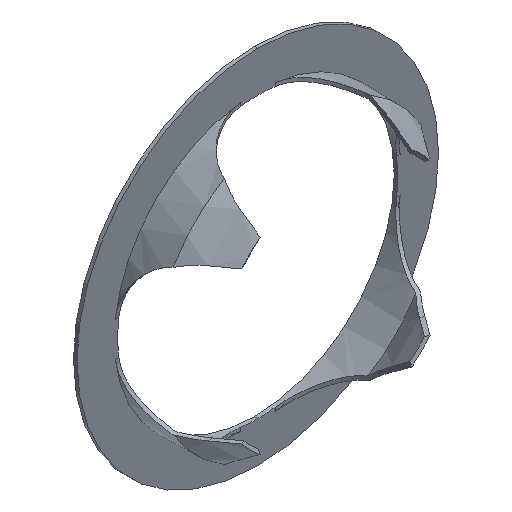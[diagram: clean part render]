
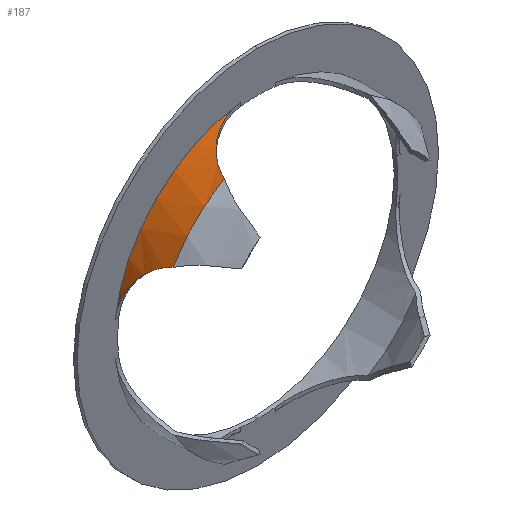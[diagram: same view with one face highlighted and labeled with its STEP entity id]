
A CAD part, isometric view. The second image highlights one B-rep face of the part: STEP entity #187.
In plain terms, the highlighted cylindrical face has radius 12.3 mm (diameter 24.6 mm), a partial arc.
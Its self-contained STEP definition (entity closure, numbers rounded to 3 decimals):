
#26 = B_SPLINE_CURVE_WITH_KNOTS ( 'NONE', 3,
 ( #1352, #1109, #775, #281, #1368, #645, #1017, #266, #1125, #402, #394, #892, #1250, #659, #409, #519 ),
 .UNSPECIFIED., .F., .F.,
 ( 4, 2, 2, 2, 2, 2, 2, 4 ),
 ( 0.014, 0.015, 0.016, 0.017, 0.017, 0.019, 0.02, 0.021 ),
 .UNSPECIFIED. ) ;
#42 = FACE_OUTER_BOUND ( 'NONE', #873, .T. ) ;
#77 = CARTESIAN_POINT ( 'NONE',  ( -10.928, -2.196, 5.648 ) ) ;
#99 = CARTESIAN_POINT ( 'NONE',  ( -10.721, -2.87, 6.031 ) ) ;
#117 = VERTEX_POINT ( 'NONE', #1499 ) ;
#125 = ORIENTED_EDGE ( 'NONE', *, *, #860, .T. ) ;
#149 = EDGE_CURVE ( 'NONE', #979, #117, #26, .T. ) ;
#187 = ADVANCED_FACE ( 'NONE', ( #42 ), #527, .T. ) ;
#195 = CARTESIAN_POINT ( 'NONE',  ( -11.403, -1.082, 4.616 ) ) ;
#210 = CARTESIAN_POINT ( 'NONE',  ( -10.662, -3.106, 6.134 ) ) ;
#266 = CARTESIAN_POINT ( 'NONE',  ( -3.987, -0.655, 11.639 ) ) ;
#268 = CARTESIAN_POINT ( 'NONE',  ( 0., -3.35, 0. ) ) ;
#281 = CARTESIAN_POINT ( 'NONE',  ( -2.546, -0.104, 12.036 ) ) ;
#326 = CARTESIAN_POINT ( 'NONE',  ( -10.611, -3.35, 6.22 ) ) ;
#345 = CARTESIAN_POINT ( 'NONE',  ( -1.5, 0., 12.208 ) ) ;
#394 = CARTESIAN_POINT ( 'NONE',  ( -5.19, -1.588, 11.156 ) ) ;
#402 = CARTESIAN_POINT ( 'NONE',  ( -4.821, -1.228, 11.324 ) ) ;
#409 = CARTESIAN_POINT ( 'NONE',  ( -6.134, -3.105, 10.662 ) ) ;
#424 = DIRECTION ( 'NONE',  ( 0., 1., 0. ) ) ;
#457 = CARTESIAN_POINT ( 'NONE',  ( -11.08, -1.791, 5.343 ) ) ;
#519 = CARTESIAN_POINT ( 'NONE',  ( -6.22, -3.35, 10.611 ) ) ;
#524 = DIRECTION ( 'NONE',  ( 0., 1., 0. ) ) ;
#527 = CYLINDRICAL_SURFACE ( 'NONE', #1047, 12.3 ) ;
#568 = CARTESIAN_POINT ( 'NONE',  ( -12.036, -0.104, 2.546 ) ) ;
#584 = EDGE_CURVE ( 'NONE', #1230, #117, #931, .T. ) ;
#625 = CARTESIAN_POINT ( 'NONE',  ( -12.208, 0., 1.5 ) ) ;
#641 = ORIENTED_EDGE ( 'NONE', *, *, #1501, .F. ) ;
#645 = CARTESIAN_POINT ( 'NONE',  ( -3.288, -0.324, 11.855 ) ) ;
#659 = CARTESIAN_POINT ( 'NONE',  ( -6.029, -2.865, 10.722 ) ) ;
#677 = CARTESIAN_POINT ( 'NONE',  ( -11.321, -1.247, 4.813 ) ) ;
#700 = CARTESIAN_POINT ( 'NONE',  ( -12.134, -0.021, 2.03 ) ) ;
#765 = CARTESIAN_POINT ( 'NONE',  ( 0., 0., 0. ) ) ;
#775 = CARTESIAN_POINT ( 'NONE',  ( -2.026, -0.021, 12.135 ) ) ;
#799 = CARTESIAN_POINT ( 'NONE',  ( -11.16, -1.601, 5.176 ) ) ;
#811 = CARTESIAN_POINT ( 'NONE',  ( -10.611, -3.35, 6.22 ) ) ;
#819 = CARTESIAN_POINT ( 'NONE',  ( -11.785, -0.424, 3.531 ) ) ;
#860 = EDGE_CURVE ( 'NONE', #1458, #1230, #1003, .T. ) ;
#873 = EDGE_LOOP ( 'NONE', ( #641, #125, #1537, #1298 ) ) ;
#885 = CARTESIAN_POINT ( 'NONE',  ( 0., 0., 0. ) ) ;
#892 = CARTESIAN_POINT ( 'NONE',  ( -5.647, -2.195, 10.928 ) ) ;
#931 = CIRCLE ( 'NONE', #987, 12.3 ) ;
#943 = CARTESIAN_POINT ( 'NONE',  ( -11.98, -0.165, 2.798 ) ) ;
#960 = DIRECTION ( 'NONE',  ( 0., 0., 1. ) ) ;
#979 = VERTEX_POINT ( 'NONE', #345 ) ;
#987 = AXIS2_PLACEMENT_3D ( 'NONE', #268, #1321, #960 ) ;
#1003 = B_SPLINE_CURVE_WITH_KNOTS ( 'NONE', 3,
 ( #1396, #1276, #700, #568, #943, #1403, #819, #1056, #1158, #195, #677, #799, #457, #77, #1178, #99, #210, #811 ),
 .UNSPECIFIED., .F., .F.,
 ( 4, 2, 2, 2, 2, 2, 2, 2, 4 ),
 ( 0.008, 0.009, 0.009, 0.01, 0.011, 0.012, 0.013, 0.013, 0.014 ),
 .UNSPECIFIED. ) ;
#1017 = CARTESIAN_POINT ( 'NONE',  ( -3.528, -0.422, 11.786 ) ) ;
#1045 = CIRCLE ( 'NONE', #1244, 12.3 ) ;
#1047 = AXIS2_PLACEMENT_3D ( 'NONE', #885, #424, #1265 ) ;
#1056 = CARTESIAN_POINT ( 'NONE',  ( -11.638, -0.655, 3.987 ) ) ;
#1109 = CARTESIAN_POINT ( 'NONE',  ( -1.763, 0., 12.176 ) ) ;
#1125 = CARTESIAN_POINT ( 'NONE',  ( -4.204, -0.786, 11.561 ) ) ;
#1158 = CARTESIAN_POINT ( 'NONE',  ( -11.561, -0.786, 4.204 ) ) ;
#1178 = CARTESIAN_POINT ( 'NONE',  ( -10.855, -2.413, 5.787 ) ) ;
#1230 = VERTEX_POINT ( 'NONE', #326 ) ;
#1244 = AXIS2_PLACEMENT_3D ( 'NONE', #765, #524, #1358 ) ;
#1250 = CARTESIAN_POINT ( 'NONE',  ( -5.785, -2.41, 10.856 ) ) ;
#1265 = DIRECTION ( 'NONE',  ( 0., 0., 1. ) ) ;
#1276 = CARTESIAN_POINT ( 'NONE',  ( -12.176, 0., 1.764 ) ) ;
#1298 = ORIENTED_EDGE ( 'NONE', *, *, #149, .F. ) ;
#1321 = DIRECTION ( 'NONE',  ( 0., 1., 0. ) ) ;
#1352 = CARTESIAN_POINT ( 'NONE',  ( -1.5, 0., 12.208 ) ) ;
#1358 = DIRECTION ( 'NONE',  ( 0., 0., 1. ) ) ;
#1368 = CARTESIAN_POINT ( 'NONE',  ( -2.798, -0.165, 11.98 ) ) ;
#1396 = CARTESIAN_POINT ( 'NONE',  ( -12.208, 0., 1.5 ) ) ;
#1403 = CARTESIAN_POINT ( 'NONE',  ( -11.855, -0.324, 3.29 ) ) ;
#1458 = VERTEX_POINT ( 'NONE', #625 ) ;
#1499 = CARTESIAN_POINT ( 'NONE',  ( -6.22, -3.35, 10.611 ) ) ;
#1501 = EDGE_CURVE ( 'NONE', #1458, #979, #1045, .T. ) ;
#1537 = ORIENTED_EDGE ( 'NONE', *, *, #584, .T. ) ;
